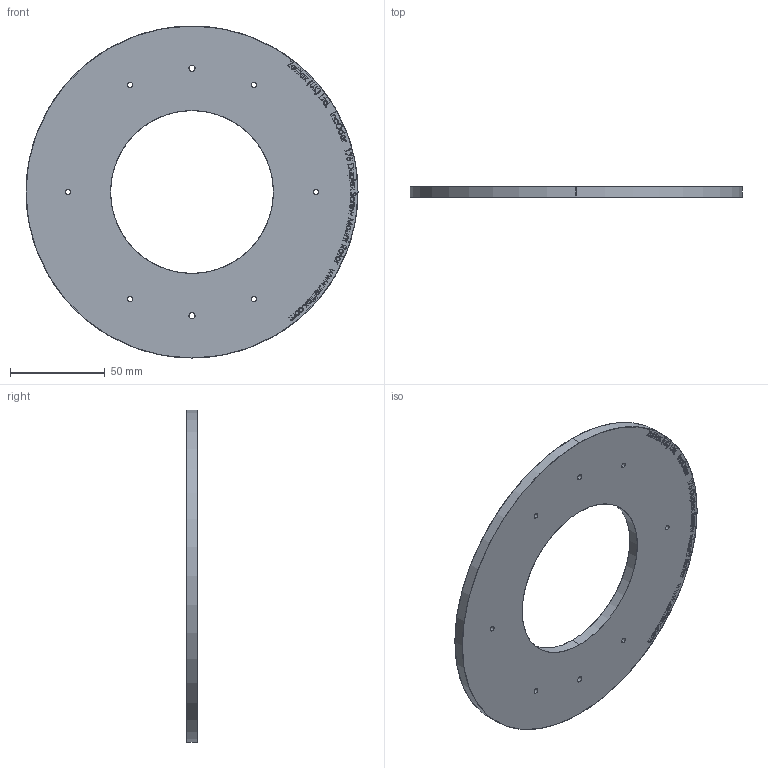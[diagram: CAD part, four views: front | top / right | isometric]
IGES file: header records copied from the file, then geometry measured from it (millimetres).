
Start section: SolidWorks IGES file using analytic representation for surfaces
Global section: file name: C:\Zettlex Data\Mechanical Drawings\1011\175 Duplex Screw Mount Rotor Rev 1-2.IGS; native system: SolidWorks 2015; preprocessor: SolidWorks 2015; author: Nigel; date: 150914.153751; units: millimetre
Bounding box: 175 x 5.6 x 175 mm (x, y, z)
Surface area: 41726.9 mm2 (no closed solid volume)
Topology: 0 solids, 0 shells, 783 faces, 9284 edges, 9284 vertices
Faces by surface type: bspline 751, revolution 32
